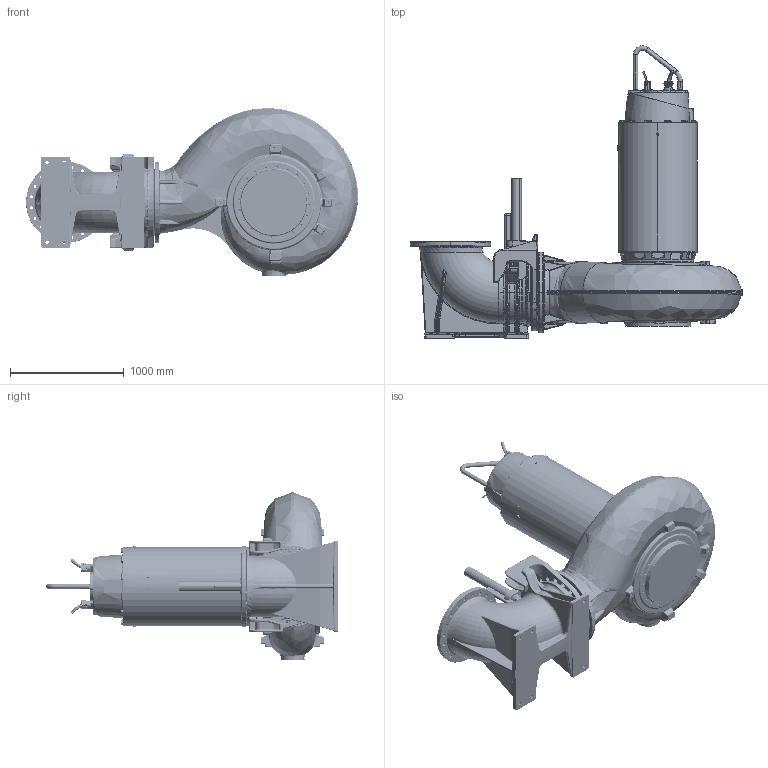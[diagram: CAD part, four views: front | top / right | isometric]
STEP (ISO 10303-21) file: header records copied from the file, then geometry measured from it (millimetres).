
FILE_DESCRIPTION (( 'STEP AP214' ), '1' );
FILE_NAME ('PE6_XFP501U-SK3_WET_B_NG2.STEP', '2017-03-28T12:01:00', ( '' ), ( '' ), 'SwSTEP 2.0', 'SolidWorks 2017', '' );
FILE_SCHEMA (( 'AUTOMOTIVE_DESIGN' ));
Length unit declared in the file: millimetre
Products named in the file (1): PE6_XFP501U-SK3_WET_B_NG2
Bounding box: 2913.14 x 2565.24 x 1469.42 mm (x, y, z)
Volume: 1636906904.8 mm3; surface area: 17269372.9 mm2
Topology: 4 solids, 17 shells, 5308 faces, 12917 edges, 7446 vertices
Faces by surface type: cylinder 1582, bspline 1395, plane 1107, torus 597, cone 355, sphere 272
Entity records: 303890 total; most frequent: CARTESIAN_POINT 133600, ORIENTED_EDGE 25148, DIRECTION 21497, EDGE_CURVE 12574, AXIS2_PLACEMENT_3D 8788, VERTEX_POINT 7415, EDGE_LOOP 5621, UNCERTAINTY_MEASURE_WITH_UNIT 5314
